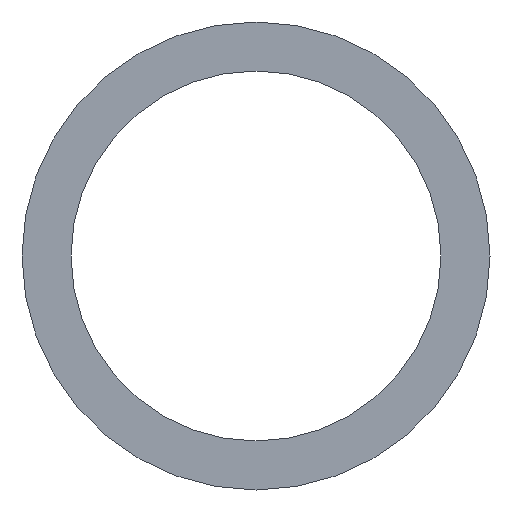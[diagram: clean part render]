
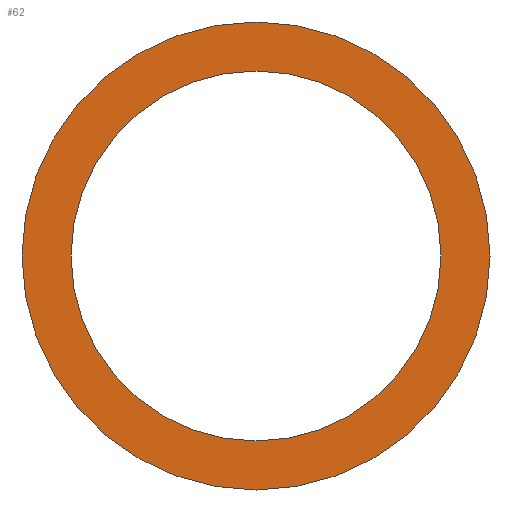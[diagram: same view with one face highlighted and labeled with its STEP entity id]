
A CAD part, front view. The second image highlights one B-rep face of the part: STEP entity #62.
In plain terms, the highlighted planar face has unit normal (0, -1, 0).
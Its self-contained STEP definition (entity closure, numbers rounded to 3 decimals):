
#20=PLANE('',#83);
#26=ORIENTED_EDGE('',*,*,#30,.T.);
#27=ORIENTED_EDGE('',*,*,#32,.F.);
#30=EDGE_CURVE('',#34,#34,#38,.T.);
#32=EDGE_CURVE('',#36,#36,#40,.T.);
#34=VERTEX_POINT('',#106);
#36=VERTEX_POINT('',#111);
#38=CIRCLE('',#78,530.);
#40=CIRCLE('',#81,670.5);
#46=EDGE_LOOP('',(#26));
#47=EDGE_LOOP('',(#27));
#54=FACE_BOUND('',#46,.T.);
#55=FACE_BOUND('',#47,.T.);
#62=ADVANCED_FACE('',(#54,#55),#20,.F.);
#78=AXIS2_PLACEMENT_3D('',#105,#89,#90);
#81=AXIS2_PLACEMENT_3D('',#110,#95,#96);
#83=AXIS2_PLACEMENT_3D('',#114,#99,#100);
#89=DIRECTION('',(0.,1.,0.));
#90=DIRECTION('',(1.,0.,0.));
#95=DIRECTION('',(0.,1.,0.));
#96=DIRECTION('',(1.,0.,0.));
#99=DIRECTION('',(0.,1.,0.));
#100=DIRECTION('',(0.,0.,1.));
#105=CARTESIAN_POINT('',(0.,-1.5,0.));
#106=CARTESIAN_POINT('',(530.,-1.5,0.));
#110=CARTESIAN_POINT('',(0.,-1.5,0.));
#111=CARTESIAN_POINT('',(670.5,-1.5,0.));
#114=CARTESIAN_POINT('',(0.,-1.5,0.));
